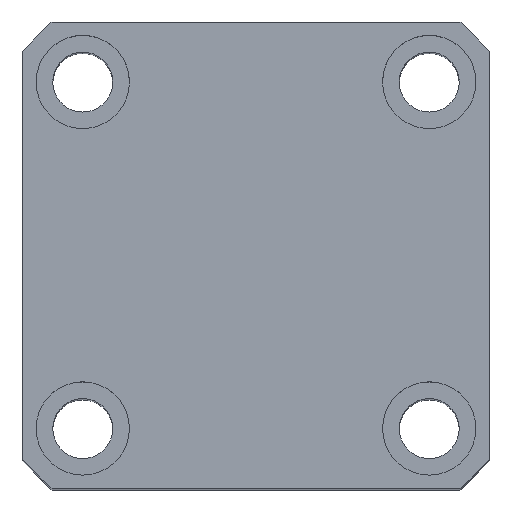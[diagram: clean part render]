
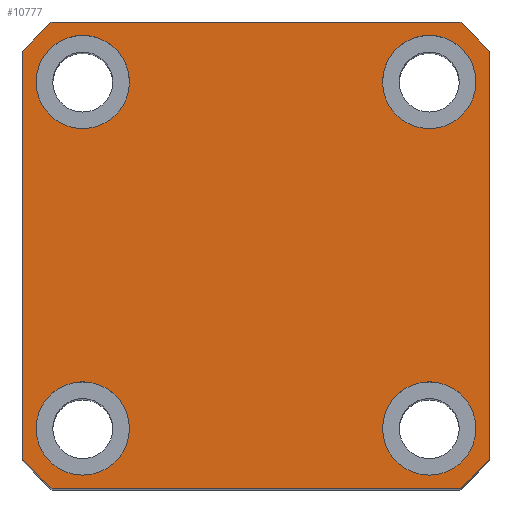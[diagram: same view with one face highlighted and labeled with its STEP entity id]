
A CAD part, top view. The second image highlights one B-rep face of the part: STEP entity #10777.
In plain terms, the highlighted planar face has unit normal (0, 0, 1).
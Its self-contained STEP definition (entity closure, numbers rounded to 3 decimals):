
#74 = EDGE_CURVE ( 'NONE', #12541, #12160, #11844, .T. ) ;
#83 = EDGE_CURVE ( 'NONE', #4260, #12541, #5955, .T. ) ;
#85 = VERTEX_POINT ( 'NONE', #9869 ) ;
#120 = VERTEX_POINT ( 'NONE', #2772 ) ;
#174 = DIRECTION ( 'NONE',  ( 0., 0., 1. ) ) ;
#387 = VECTOR ( 'NONE', #13150, 1000. ) ;
#447 = DIRECTION ( 'NONE',  ( 1., 0., 0. ) ) ;
#467 = CARTESIAN_POINT ( 'NONE',  ( -33., 26., 135. ) ) ;
#522 = EDGE_CURVE ( 'NONE', #11909, #8492, #1183, .T. ) ;
#596 = DIRECTION ( 'NONE',  ( 1., 0., 0. ) ) ;
#800 = EDGE_LOOP ( 'NONE', ( #1604, #10229 ) ) ;
#823 = CARTESIAN_POINT ( 'NONE',  ( -30.615, 35., 135. ) ) ;
#919 = CARTESIAN_POINT ( 'NONE',  ( 26., -26., 135. ) ) ;
#947 = ORIENTED_EDGE ( 'NONE', *, *, #522, .T. ) ;
#1000 = AXIS2_PLACEMENT_3D ( 'NONE', #4444, #11773, #5511 ) ;
#1024 = VERTEX_POINT ( 'NONE', #467 ) ;
#1181 = EDGE_LOOP ( 'NONE', ( #4388, #11117, #9480, #947, #5303, #4326, #7169, #8589 ) ) ;
#1183 = CIRCLE ( 'NONE', #2081, 46.5 ) ;
#1362 = CARTESIAN_POINT ( 'NONE',  ( 0., 0., 135. ) ) ;
#1419 = AXIS2_PLACEMENT_3D ( 'NONE', #9970, #3695, #11016 ) ;
#1445 = ORIENTED_EDGE ( 'NONE', *, *, #11770, .F. ) ;
#1604 = ORIENTED_EDGE ( 'NONE', *, *, #6588, .F. ) ;
#1675 = CIRCLE ( 'NONE', #1000, 46.5 ) ;
#1759 = CIRCLE ( 'NONE', #3207, 7. ) ;
#1860 = VERTEX_POINT ( 'NONE', #5673 ) ;
#1882 = FACE_OUTER_BOUND ( 'NONE', #1181, .T. ) ;
#1981 = DIRECTION ( 'NONE',  ( 1., 0., 0. ) ) ;
#2026 = CARTESIAN_POINT ( 'NONE',  ( -35., 35., 135. ) ) ;
#2081 = AXIS2_PLACEMENT_3D ( 'NONE', #1362, #174, #2146 ) ;
#2146 = DIRECTION ( 'NONE',  ( 1., 0., 0. ) ) ;
#2278 = VERTEX_POINT ( 'NONE', #11136 ) ;
#2349 = VERTEX_POINT ( 'NONE', #12302 ) ;
#2399 = EDGE_CURVE ( 'NONE', #7292, #8901, #1675, .T. ) ;
#2772 = CARTESIAN_POINT ( 'NONE',  ( -19., -26., 135. ) ) ;
#2780 = DIRECTION ( 'NONE',  ( 1., 0., 0. ) ) ;
#2920 = CARTESIAN_POINT ( 'NONE',  ( 26., 26., 135. ) ) ;
#3207 = AXIS2_PLACEMENT_3D ( 'NONE', #6097, #13413, #7149 ) ;
#3215 = EDGE_CURVE ( 'NONE', #2278, #85, #12820, .T. ) ;
#3235 = VERTEX_POINT ( 'NONE', #7241 ) ;
#3417 = LINE ( 'NONE', #3841, #8657 ) ;
#3695 = DIRECTION ( 'NONE',  ( 0., 0., 1. ) ) ;
#3794 = CARTESIAN_POINT ( 'NONE',  ( -26., -26., 135. ) ) ;
#3841 = CARTESIAN_POINT ( 'NONE',  ( -35., 35., 135. ) ) ;
#3956 = DIRECTION ( 'NONE',  ( 1., 0., 0. ) ) ;
#4113 = DIRECTION ( 'NONE',  ( 0., 0., 1. ) ) ;
#4260 = VERTEX_POINT ( 'NONE', #9709 ) ;
#4326 = ORIENTED_EDGE ( 'NONE', *, *, #2399, .T. ) ;
#4362 = CIRCLE ( 'NONE', #9272, 7. ) ;
#4388 = ORIENTED_EDGE ( 'NONE', *, *, #83, .T. ) ;
#4444 = CARTESIAN_POINT ( 'NONE',  ( 0., 0., 135. ) ) ;
#4447 = AXIS2_PLACEMENT_3D ( 'NONE', #6984, #9958, #11055 ) ;
#4502 = DIRECTION ( 'NONE',  ( 0., 0., 1. ) ) ;
#4507 = AXIS2_PLACEMENT_3D ( 'NONE', #9047, #5900, #2780 ) ;
#4527 = EDGE_CURVE ( 'NONE', #8492, #7292, #3417, .T. ) ;
#4532 = CARTESIAN_POINT ( 'NONE',  ( -35., -30.615, 135. ) ) ;
#4557 = EDGE_LOOP ( 'NONE', ( #7672, #1445 ) ) ;
#4637 = CARTESIAN_POINT ( 'NONE',  ( -35., 30.615, 135. ) ) ;
#4680 = FACE_BOUND ( 'NONE', #800, .T. ) ;
#4855 = DIRECTION ( 'NONE',  ( 1., 0., 0. ) ) ;
#5007 = FACE_BOUND ( 'NONE', #4557, .T. ) ;
#5150 = DIRECTION ( 'NONE',  ( 0., 0., 1. ) ) ;
#5303 = ORIENTED_EDGE ( 'NONE', *, *, #4527, .T. ) ;
#5511 = DIRECTION ( 'NONE',  ( 1., 0., 0. ) ) ;
#5562 = CIRCLE ( 'NONE', #1419, 7. ) ;
#5673 = CARTESIAN_POINT ( 'NONE',  ( 33., -26., 135. ) ) ;
#5900 = DIRECTION ( 'NONE',  ( 0., 0., 1. ) ) ;
#5935 = CARTESIAN_POINT ( 'NONE',  ( 35., 35., 135. ) ) ;
#5947 = EDGE_CURVE ( 'NONE', #2349, #1024, #1759, .T. ) ;
#5955 = LINE ( 'NONE', #5935, #387 ) ;
#6086 = AXIS2_PLACEMENT_3D ( 'NONE', #12976, #6715, #447 ) ;
#6097 = CARTESIAN_POINT ( 'NONE',  ( -26., 26., 135. ) ) ;
#6140 = CIRCLE ( 'NONE', #10825, 7. ) ;
#6158 = CARTESIAN_POINT ( 'NONE',  ( 35., 30.615, 135. ) ) ;
#6164 = AXIS2_PLACEMENT_3D ( 'NONE', #10399, #4113, #11440 ) ;
#6442 = EDGE_LOOP ( 'NONE', ( #9249, #6996 ) ) ;
#6588 = EDGE_CURVE ( 'NONE', #1860, #3235, #4362, .T. ) ;
#6715 = DIRECTION ( 'NONE',  ( 0., 0., 1. ) ) ;
#6984 = CARTESIAN_POINT ( 'NONE',  ( 0., 0., 135. ) ) ;
#6996 = ORIENTED_EDGE ( 'NONE', *, *, #12409, .F. ) ;
#7149 = DIRECTION ( 'NONE',  ( 1., 0., 0. ) ) ;
#7169 = ORIENTED_EDGE ( 'NONE', *, *, #9612, .T. ) ;
#7200 = ORIENTED_EDGE ( 'NONE', *, *, #5947, .F. ) ;
#7241 = CARTESIAN_POINT ( 'NONE',  ( 19., -26., 135. ) ) ;
#7247 = EDGE_LOOP ( 'NONE', ( #7200, #12246 ) ) ;
#7292 = VERTEX_POINT ( 'NONE', #4532 ) ;
#7449 = FACE_BOUND ( 'NONE', #6442, .T. ) ;
#7488 = LINE ( 'NONE', #12117, #7833 ) ;
#7672 = ORIENTED_EDGE ( 'NONE', *, *, #7839, .F. ) ;
#7833 = VECTOR ( 'NONE', #596, 1000. ) ;
#7839 = EDGE_CURVE ( 'NONE', #120, #13371, #5562, .T. ) ;
#7937 = AXIS2_PLACEMENT_3D ( 'NONE', #11402, #5150, #12449 ) ;
#7988 = PLANE ( 'NONE',  #4507 ) ;
#8246 = DIRECTION ( 'NONE',  ( 0., 0., 1. ) ) ;
#8492 = VERTEX_POINT ( 'NONE', #4637 ) ;
#8589 = ORIENTED_EDGE ( 'NONE', *, *, #13045, .T. ) ;
#8657 = VECTOR ( 'NONE', #11165, 1000. ) ;
#8901 = VERTEX_POINT ( 'NONE', #12804 ) ;
#9047 = CARTESIAN_POINT ( 'NONE',  ( 0., 0., 135. ) ) ;
#9133 = CARTESIAN_POINT ( 'NONE',  ( -33., -26., 135. ) ) ;
#9249 = ORIENTED_EDGE ( 'NONE', *, *, #3215, .F. ) ;
#9272 = AXIS2_PLACEMENT_3D ( 'NONE', #919, #8246, #1981 ) ;
#9304 = CARTESIAN_POINT ( 'NONE',  ( 30.615, -35., 135. ) ) ;
#9354 = DIRECTION ( 'NONE',  ( -1., 0., 0. ) ) ;
#9480 = ORIENTED_EDGE ( 'NONE', *, *, #10854, .T. ) ;
#9577 = LINE ( 'NONE', #2026, #12350 ) ;
#9612 = EDGE_CURVE ( 'NONE', #8901, #10209, #7488, .T. ) ;
#9709 = CARTESIAN_POINT ( 'NONE',  ( 35., -30.615, 135. ) ) ;
#9869 = CARTESIAN_POINT ( 'NONE',  ( 19., 26., 135. ) ) ;
#9894 = CIRCLE ( 'NONE', #6086, 46.5 ) ;
#9958 = DIRECTION ( 'NONE',  ( 0., 0., 1. ) ) ;
#9970 = CARTESIAN_POINT ( 'NONE',  ( -26., -26., 135. ) ) ;
#10117 = AXIS2_PLACEMENT_3D ( 'NONE', #2920, #10235, #3956 ) ;
#10209 = VERTEX_POINT ( 'NONE', #9304 ) ;
#10229 = ORIENTED_EDGE ( 'NONE', *, *, #10987, .F. ) ;
#10233 = FACE_BOUND ( 'NONE', #7247, .T. ) ;
#10235 = DIRECTION ( 'NONE',  ( 0., 0., 1. ) ) ;
#10240 = EDGE_CURVE ( 'NONE', #1024, #2349, #12514, .T. ) ;
#10399 = CARTESIAN_POINT ( 'NONE',  ( -26., 26., 135. ) ) ;
#10773 = CARTESIAN_POINT ( 'NONE',  ( 26., -26., 135. ) ) ;
#10777 = ADVANCED_FACE ( 'NONE', ( #5007, #4680, #7449, #10233, #1882 ), #7988, .T. ) ;
#10825 = AXIS2_PLACEMENT_3D ( 'NONE', #10773, #4502, #11824 ) ;
#10854 = EDGE_CURVE ( 'NONE', #12160, #11909, #9577, .T. ) ;
#10888 = CIRCLE ( 'NONE', #11687, 7. ) ;
#10987 = EDGE_CURVE ( 'NONE', #3235, #1860, #6140, .T. ) ;
#11016 = DIRECTION ( 'NONE',  ( 1., 0., 0. ) ) ;
#11055 = DIRECTION ( 'NONE',  ( 1., 0., 0. ) ) ;
#11117 = ORIENTED_EDGE ( 'NONE', *, *, #74, .T. ) ;
#11127 = DIRECTION ( 'NONE',  ( 0., 0., 1. ) ) ;
#11136 = CARTESIAN_POINT ( 'NONE',  ( 33., 26., 135. ) ) ;
#11165 = DIRECTION ( 'NONE',  ( 0., -1., 0. ) ) ;
#11402 = CARTESIAN_POINT ( 'NONE',  ( 26., 26., 135. ) ) ;
#11440 = DIRECTION ( 'NONE',  ( 1., 0., 0. ) ) ;
#11687 = AXIS2_PLACEMENT_3D ( 'NONE', #3794, #11127, #4855 ) ;
#11770 = EDGE_CURVE ( 'NONE', #13371, #120, #10888, .T. ) ;
#11773 = DIRECTION ( 'NONE',  ( 0., 0., 1. ) ) ;
#11824 = DIRECTION ( 'NONE',  ( 1., 0., 0. ) ) ;
#11844 = CIRCLE ( 'NONE', #4447, 46.5 ) ;
#11909 = VERTEX_POINT ( 'NONE', #823 ) ;
#12117 = CARTESIAN_POINT ( 'NONE',  ( -35., -35., 135. ) ) ;
#12160 = VERTEX_POINT ( 'NONE', #12918 ) ;
#12246 = ORIENTED_EDGE ( 'NONE', *, *, #10240, .F. ) ;
#12302 = CARTESIAN_POINT ( 'NONE',  ( -19., 26., 135. ) ) ;
#12350 = VECTOR ( 'NONE', #9354, 1000. ) ;
#12409 = EDGE_CURVE ( 'NONE', #85, #2278, #13165, .T. ) ;
#12449 = DIRECTION ( 'NONE',  ( 1., 0., 0. ) ) ;
#12514 = CIRCLE ( 'NONE', #6164, 7. ) ;
#12541 = VERTEX_POINT ( 'NONE', #6158 ) ;
#12804 = CARTESIAN_POINT ( 'NONE',  ( -30.615, -35., 135. ) ) ;
#12820 = CIRCLE ( 'NONE', #7937, 7. ) ;
#12918 = CARTESIAN_POINT ( 'NONE',  ( 30.615, 35., 135. ) ) ;
#12976 = CARTESIAN_POINT ( 'NONE',  ( 0., 0., 135. ) ) ;
#13045 = EDGE_CURVE ( 'NONE', #10209, #4260, #9894, .T. ) ;
#13150 = DIRECTION ( 'NONE',  ( 0., 1., 0. ) ) ;
#13165 = CIRCLE ( 'NONE', #10117, 7. ) ;
#13371 = VERTEX_POINT ( 'NONE', #9133 ) ;
#13413 = DIRECTION ( 'NONE',  ( 0., 0., 1. ) ) ;
